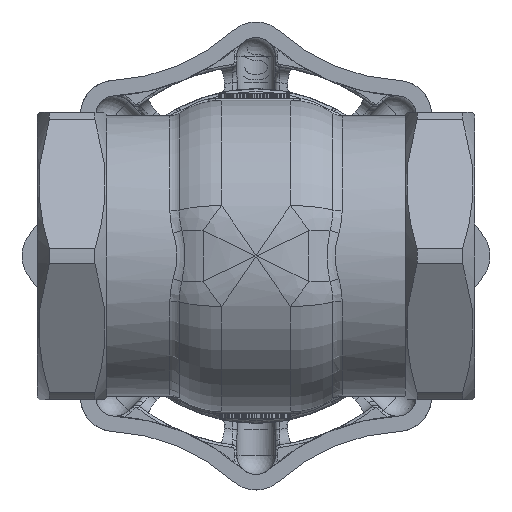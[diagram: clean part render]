
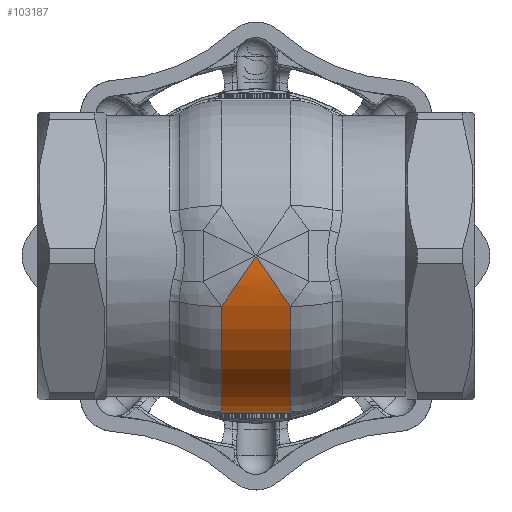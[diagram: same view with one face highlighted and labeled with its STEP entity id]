
A CAD part, front view. The second image highlights one B-rep face of the part: STEP entity #103187.
In plain terms, the highlighted cylindrical face has radius 30.3 mm (diameter 60.6 mm), a partial arc.
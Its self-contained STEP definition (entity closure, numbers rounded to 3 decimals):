
#102663=CARTESIAN_POINT('',(44.201,35.5,-36.285));
#102664=VERTEX_POINT('',#102663);
#103060=CARTESIAN_POINT('',(37.551,37.125,-46.074));
#103061=VERTEX_POINT('',#103060);
#103117=CARTESIAN_POINT('',(37.551,37.125,-46.074));
#103118=CARTESIAN_POINT('',(37.576,37.112,-46.038));
#103119=CARTESIAN_POINT('',(37.601,37.1,-46.001));
#103120=CARTESIAN_POINT('',(37.626,37.088,-45.965));
#103121=CARTESIAN_POINT('',(38.259,36.777,-45.044));
#103122=CARTESIAN_POINT('',(38.919,36.502,-44.079));
#103123=CARTESIAN_POINT('',(39.601,36.271,-43.079));
#103124=CARTESIAN_POINT('',(39.966,36.148,-42.542));
#103125=CARTESIAN_POINT('',(40.338,36.037,-41.995));
#103126=CARTESIAN_POINT('',(40.718,35.941,-41.435));
#103127=CARTESIAN_POINT('',(41.073,35.85,-40.911));
#103128=CARTESIAN_POINT('',(41.436,35.772,-40.376));
#103129=CARTESIAN_POINT('',(41.806,35.708,-39.828));
#103130=CARTESIAN_POINT('',(42.572,35.575,-38.696));
#103131=CARTESIAN_POINT('',(43.371,35.5,-37.511));
#103132=CARTESIAN_POINT('',(44.201,35.5,-36.285));
#103133=B_SPLINE_CURVE_WITH_KNOTS('',3,(#103117,#103118,#103119,#103120,#103121,#103122,#103123,#103124,#103125,#103126,#103127,#103128,#103129,#103130,#103131,#103132),.UNSPECIFIED.,.F.,.U.,(4,3,3,3,3,4),(0.0,0.013,0.333,0.505,0.667,1.0),.UNSPECIFIED.);
#103134=EDGE_CURVE('',#103061,#102664,#103133,.T.);
#103140=CARTESIAN_POINT('',(22.551,65.8,-36.285));
#103141=DIRECTION('',(1.0,0.0,0.0));
#103142=DIRECTION('',(0.0,0.0,-1.0));
#103143=AXIS2_PLACEMENT_3D('',#103140,#103141,#103142);
#103144=CYLINDRICAL_SURFACE('',#103143,30.3);
#103145=CARTESIAN_POINT('',(37.551,71.927,-65.959));
#103146=VERTEX_POINT('',#103145);
#103147=CARTESIAN_POINT('',(37.551,65.8,-36.285));
#103148=DIRECTION('',(1.0,0.0,0.0));
#103149=DIRECTION('',(0.0,-0.946,-0.323));
#103150=AXIS2_PLACEMENT_3D('',#103147,#103148,#103149);
#103151=CIRCLE('',#103150,30.3);
#103152=EDGE_CURVE('',#103061,#103146,#103151,.T.);
#103153=ORIENTED_EDGE('',*,*,#103152,.T.);
#103154=CARTESIAN_POINT('',(50.851,71.927,-65.959));
#103155=VERTEX_POINT('',#103154);
#103156=CARTESIAN_POINT('',(37.551,71.927,-65.959));
#103157=DIRECTION('',(1.0,0.0,0.0));
#103158=VECTOR('',#103157,13.3);
#103159=LINE('',#103156,#103158);
#103160=EDGE_CURVE('',#103146,#103155,#103159,.T.);
#103161=ORIENTED_EDGE('',*,*,#103160,.T.);
#103162=CARTESIAN_POINT('',(50.851,37.125,-46.074));
#103163=VERTEX_POINT('',#103162);
#103164=CARTESIAN_POINT('',(50.851,65.8,-36.285));
#103165=DIRECTION('',(-1.0,0.0,0.0));
#103166=DIRECTION('',(0.0,0.202,-0.979));
#103167=AXIS2_PLACEMENT_3D('',#103164,#103165,#103166);
#103168=CIRCLE('',#103167,30.3);
#103169=EDGE_CURVE('',#103155,#103163,#103168,.T.);
#103170=ORIENTED_EDGE('',*,*,#103169,.T.);
#103171=CARTESIAN_POINT('',(44.201,35.5,-36.285));
#103172=CARTESIAN_POINT('',(45.005,35.5,-37.474));
#103173=CARTESIAN_POINT('',(45.787,35.57,-38.634));
#103174=CARTESIAN_POINT('',(46.543,35.699,-39.751));
#103175=CARTESIAN_POINT('',(47.298,35.827,-40.868));
#103176=CARTESIAN_POINT('',(48.026,36.013,-41.94));
#103177=CARTESIAN_POINT('',(48.742,36.252,-42.993));
#103178=CARTESIAN_POINT('',(49.459,36.491,-44.045));
#103179=CARTESIAN_POINT('',(50.164,36.784,-45.076));
#103180=CARTESIAN_POINT('',(50.851,37.125,-46.074));
#103181=B_SPLINE_CURVE_WITH_KNOTS('',3,(#103171,#103172,#103173,#103174,#103175,#103176,#103177,#103178,#103179,#103180),.UNSPECIFIED.,.F.,.U.,(4,3,3,4),(0.0,0.333,0.667,1.),.UNSPECIFIED.);
#103182=EDGE_CURVE('',#102664,#103163,#103181,.T.);
#103183=ORIENTED_EDGE('',*,*,#103182,.F.);
#103184=ORIENTED_EDGE('',*,*,#103134,.F.);
#103185=EDGE_LOOP('',(#103153,#103161,#103170,#103183,#103184));
#103186=FACE_OUTER_BOUND('',#103185,.T.);
#103187=ADVANCED_FACE('',(#103186),#103144,.T.);
